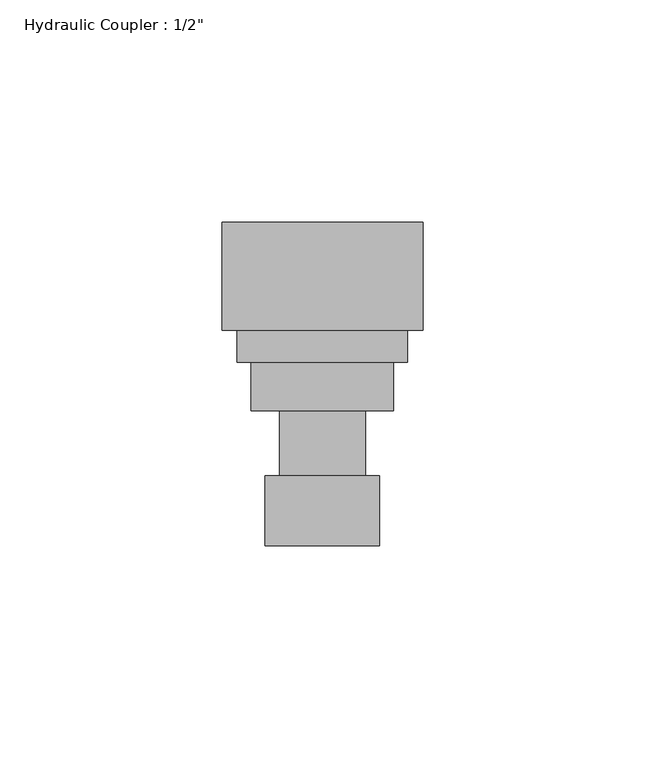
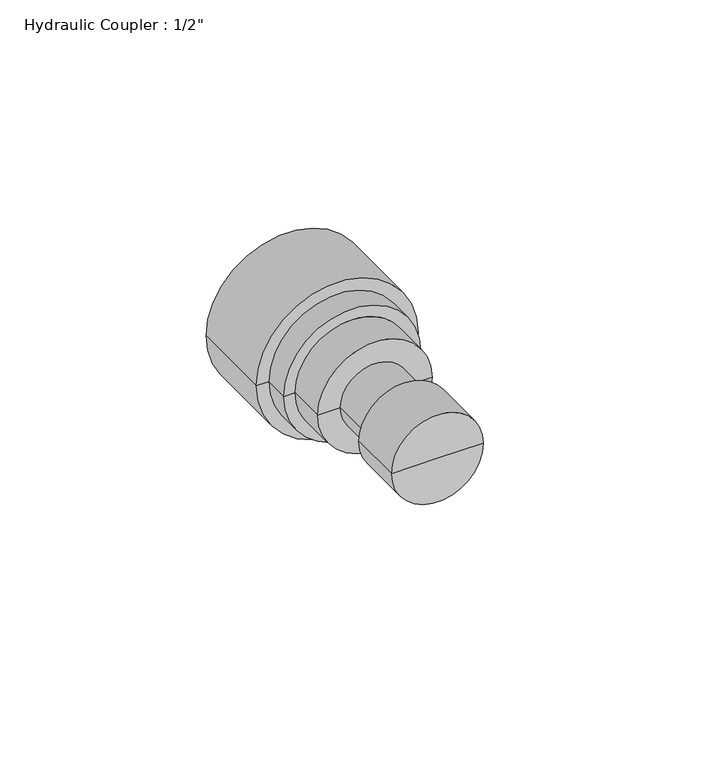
"""IFC4 building model written with IfcOpenShell, lengths in millimetres: valve geometry."""

from ifc_helpers import new_model, si_unit, frame, origin, place, context, project, spatial, polyline, circle_curve, source, transform, mapped, element, save
from ifc_brep_helpers import plane_surface, cylinder_surface, revolved_surface, advanced_brep


def valve_2361fda4(model_context):
    return source(origin(), model_context, "Body", "AdvancedBrep", [
        advanced_brep(
        [(-570.913492, 82.6248003, 0.0), (-545.1746966, 82.6248003, 0.0), (-558.0440943, 82.6248003, 0.0), (-570.913492, 98.4253862, 0.0), (-545.1746966, 98.4253862, 0.0), (-567.7245388, 98.4253862, 0.0), (-548.3636498, 98.4253862, 0.0), (-567.7245388, 113.0105425, 0.0), (-548.3636498, 113.0105425, 0.0), (-580.692492, 131.2419878, 0.0), (-535.3956966, 131.2419878, 0.0), (-538.8246966, 131.2419878, 0.0), (-577.263492, 131.2419878, 0.0), (-580.692492, 155.5505816, 0.0), (-535.3956966, 155.5505816, 0.0), (-570.7440943, 155.5505816, 0.0), (-545.3440943, 155.5505816, 0.0), (-574.0745388, 113.0105425, 0.0), (-542.0136498, 113.0105425, 0.0), (-574.0745388, 123.9494097, 0.0), (-542.0136498, 123.9494097, 0.0), (-577.263492, 123.9494097, 0.0), (-538.8246966, 123.9494097, 0.0), (-570.7440943, 131.2419878, 0.0), (-545.3440943, 131.2419878, 0.0), (-558.0440943, 131.2419878, 0.0)],
        [
            (0, 1, circle_curve(frame((-558.0440943, 82.6248003, 0.0), z_axis=(0.0, -1.0, 0.0), x_axis=(1.0, 0.0, 0.0)), 12.8693977)),
            (1, 2),
            (2, 0),
            (1, 0, circle_curve(frame((-558.0440943, 82.6248003, 0.0), z_axis=(0.0, -1.0, 0.0), x_axis=(1.0, 0.0, 0.0)), 12.8693977)),
            (3, 4, circle_curve(frame((-558.0440943, 98.4253862, 0.0), z_axis=(0.0, -1.0, 0.0), x_axis=(1.0, 0.0, 0.0)), 12.8693977)),
            (4, 1),
            (0, 3),
            (4, 3, circle_curve(frame((-558.0440943, 98.4253862, 0.0), z_axis=(0.0, -1.0, 0.0), x_axis=(1.0, 0.0, 0.0)), 12.8693977)),
            (5, 6, circle_curve(frame((-558.0440943, 98.4253862, 0.0), z_axis=(0.0, -1.0, 0.0), x_axis=(1.0, 0.0, 0.0)), 9.6804445)),
            (6, 4),
            (3, 5),
            (6, 5, circle_curve(frame((-558.0440943, 98.4253862, 0.0), z_axis=(0.0, -1.0, 0.0), x_axis=(1.0, 0.0, 0.0)), 9.6804445)),
            (7, 8, circle_curve(frame((-558.0440943, 113.0105425, 0.0), z_axis=(0.0, -1.0, 0.0), x_axis=(1.0, 0.0, 0.0)), 9.6804445)),
            (8, 6),
            (5, 7),
            (8, 7, circle_curve(frame((-558.0440943, 113.0105425, 0.0), z_axis=(0.0, -1.0, 0.0), x_axis=(1.0, 0.0, 0.0)), 9.6804445)),
            (9, 10, circle_curve(frame((-558.0440943, 131.2419878, 0.0), z_axis=(0.0, -1.0, 0.0), x_axis=(1.0, 0.0, 0.0)), 22.6483977)),
            (10, 11),
            (11, 12, circle_curve(frame((-558.0440943, 131.2419878, 0.0), z_axis=(0.0, 1.0, 0.0), x_axis=(1.0, 0.0, 0.0)), 19.2193977)),
            (12, 9),
            (10, 9, circle_curve(frame((-558.0440943, 131.2419878, 0.0), z_axis=(0.0, -1.0, 0.0), x_axis=(1.0, 0.0, 0.0)), 22.6483977)),
            (12, 11, circle_curve(frame((-558.0440943, 131.2419878, 0.0), z_axis=(0.0, 1.0, 0.0), x_axis=(1.0, 0.0, 0.0)), 19.2193977)),
            (13, 14, circle_curve(frame((-558.0440943, 155.5505816, 0.0), z_axis=(0.0, -1.0, 0.0), x_axis=(1.0, 0.0, 0.0)), 22.6483977)),
            (14, 10),
            (9, 13),
            (14, 13, circle_curve(frame((-558.0440943, 155.5505816, 0.0), z_axis=(0.0, -1.0, 0.0), x_axis=(1.0, 0.0, 0.0)), 22.6483977)),
            (15, 16, circle_curve(frame((-558.0440943, 155.5505816, 0.0), z_axis=(0.0, -1.0, 0.0), x_axis=(1.0, 0.0, 0.0)), 12.7)),
            (16, 14),
            (13, 15),
            (16, 15, circle_curve(frame((-558.0440943, 155.5505816, 0.0), z_axis=(0.0, -1.0, 0.0), x_axis=(1.0, 0.0, 0.0)), 12.7)),
            (17, 18, circle_curve(frame((-558.0440943, 113.0105425, 0.0), z_axis=(0.0, -1.0, 0.0), x_axis=(1.0, 0.0, 0.0)), 16.0304445)),
            (18, 8),
            (7, 17),
            (18, 17, circle_curve(frame((-558.0440943, 113.0105425, 0.0), z_axis=(0.0, -1.0, 0.0), x_axis=(1.0, 0.0, 0.0)), 16.0304445)),
            (19, 20, circle_curve(frame((-558.0440943, 123.9494097, 0.0), z_axis=(0.0, -1.0, 0.0), x_axis=(1.0, 0.0, 0.0)), 16.0304445)),
            (20, 18),
            (17, 19),
            (20, 19, circle_curve(frame((-558.0440943, 123.9494097, 0.0), z_axis=(0.0, -1.0, 0.0), x_axis=(1.0, 0.0, 0.0)), 16.0304445)),
            (21, 22, circle_curve(frame((-558.0440943, 123.9494097, 0.0), z_axis=(0.0, -1.0, 0.0), x_axis=(1.0, 0.0, 0.0)), 19.2193977)),
            (22, 20),
            (19, 21),
            (22, 21, circle_curve(frame((-558.0440943, 123.9494097, 0.0), z_axis=(0.0, -1.0, 0.0), x_axis=(1.0, 0.0, 0.0)), 19.2193977)),
            (11, 22),
            (21, 12),
            (23, 24, circle_curve(frame((-558.0440943, 131.2419878, 0.0), z_axis=(0.0, -1.0, 0.0), x_axis=(1.0, 0.0, 0.0)), 12.7)),
            (24, 16),
            (15, 23),
            (24, 23, circle_curve(frame((-558.0440943, 131.2419878, 0.0), z_axis=(0.0, -1.0, 0.0), x_axis=(1.0, 0.0, 0.0)), 12.7)),
            (25, 24),
            (23, 25),
        ],
        [
            plane_surface(frame((-558.0440943, 82.6248003, 0.0), z_axis=(0.0, -1.0, 0.0), x_axis=(1.0, 0.0, 0.0))),
            cylinder_surface(frame((-558.0440943, 155.5505816, 0.0), z_axis=(0.0, 1.0, 0.0), x_axis=(1.0, 0.0, 0.0)), 12.8693977),
            plane_surface(frame((-558.0440943, 98.4253862, 0.0), z_axis=(0.0, 1.0, 0.0), x_axis=(1.0, 0.0, 0.0))),
            cylinder_surface(frame((-558.0440943, 155.5505816, 0.0), z_axis=(0.0, 1.0, 0.0), x_axis=(1.0, 0.0, 0.0)), 9.6804445),
            plane_surface(frame((-558.0440943, 131.2419878, 0.0), z_axis=(0.0, -1.0, 0.0), x_axis=(1.0, 0.0, 0.0))),
            cylinder_surface(frame((-558.0440943, 155.5505816, 0.0), z_axis=(0.0, 1.0, 0.0), x_axis=(1.0, 0.0, 0.0)), 22.6483977),
            plane_surface(frame((-558.0440943, 155.5505816, 0.0), z_axis=(0.0, 1.0, 0.0), x_axis=(1.0, 0.0, 0.0))),
            plane_surface(frame((-558.0440943, 113.0105425, 0.0), z_axis=(0.0, -1.0, 0.0), x_axis=(1.0, 0.0, 0.0))),
            cylinder_surface(frame((-558.0440943, 155.5505816, 0.0), z_axis=(0.0, 1.0, 0.0), x_axis=(1.0, 0.0, 0.0)), 16.0304445),
            plane_surface(frame((-558.0440943, 123.9494097, 0.0), z_axis=(0.0, -1.0, 0.0), x_axis=(1.0, 0.0, 0.0))),
            cylinder_surface(frame((-558.0440943, 155.5505816, 0.0), z_axis=(0.0, 1.0, 0.0), x_axis=(1.0, 0.0, 0.0)), 19.2193977),
            revolved_surface(polyline([(-545.3440942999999, 155.5505816, 0.0), (-545.3440942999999, 131.2419878, 0.0)]), (-558.0440943, 155.5505816, 0.0), (0.0, 1.0, 0.0)),
            plane_surface(frame((-558.0440943, 131.2419878, 0.0), z_axis=(0.0, 1.0, 0.0), x_axis=(1.0, 0.0, 0.0))),
        ],
        [
            (0, [[1, 2, 3]]),
            (0, [[4, -3, -2]]),
            (1, [[5, 6, -1, 7]]),
            (1, [[8, -7, -4, -6]]),
            (2, [[9, 10, -5, 11]]),
            (2, [[12, -11, -8, -10]]),
            (3, [[13, 14, -9, 15]]),
            (3, [[16, -15, -12, -14]]),
            (4, [[17, 18, 19, 20]]),
            (4, [[21, -20, 22, -18]]),
            (5, [[23, 24, -17, 25]]),
            (5, [[26, -25, -21, -24]]),
            (6, [[27, 28, -23, 29]]),
            (6, [[30, -29, -26, -28]]),
            (7, [[31, 32, -13, 33]]),
            (7, [[34, -33, -16, -32]]),
            (8, [[35, 36, -31, 37]]),
            (8, [[38, -37, -34, -36]]),
            (9, [[39, 40, -35, 41]]),
            (9, [[42, -41, -38, -40]]),
            (10, [[-19, 43, -39, 44]]),
            (10, [[-22, -44, -42, -43]]),
            (11, [[45, 46, -27, 47]]),
            (11, [[48, -47, -30, -46]]),
            (12, [[49, -45, 50]]),
            (12, [[-50, -48, -49]]),
        ],
    ),
    ])


if __name__ == "__main__":
    model = new_model("IFC4")
    model_context = context("Model", 3, world=origin())
    ifc_project = project(units=[si_unit("LENGTHUNIT", "METRE", prefix="MILLI")], contexts=[model_context])
    site = spatial("IfcSite", under=ifc_project)
    building = spatial("IfcBuilding", under=site)
    placement = place(None, origin())
    valve_shape = valve_2361fda4(model_context)
    element("IfcValve", 1, ObjectType="Hydraulic Coupler : 1/2\"", at=placement, inside=building, context=model_context, shape_type="MappedRepresentation", body=[
        mapped(valve_shape, transform((0.0, 0.0, 0.0), x_axis=(1.0, 0.0, 0.0), y_axis=(0.0, 1.0, 0.0), z_axis=(0.0, 0.0, 1.0))),
    ])
    save(model, "model.ifc")
